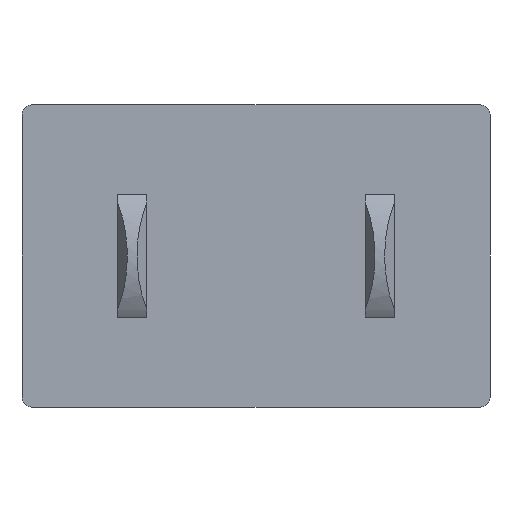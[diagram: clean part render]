
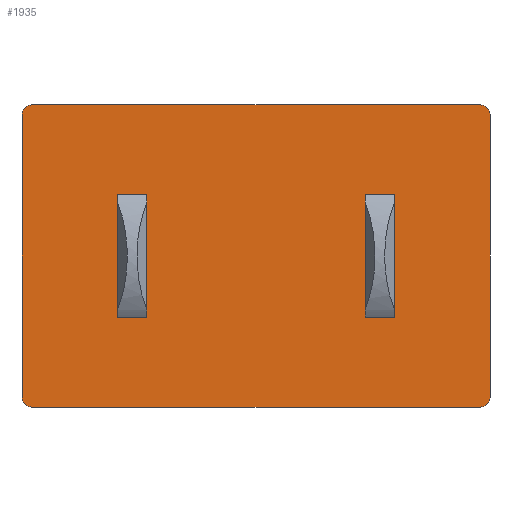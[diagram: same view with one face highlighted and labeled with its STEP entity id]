
A CAD part, front view. The second image highlights one B-rep face of the part: STEP entity #1935.
In plain terms, the highlighted planar face has unit normal (0, -1, 0).
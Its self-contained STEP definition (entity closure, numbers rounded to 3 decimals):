
#143 = AXIS2_PLACEMENT_3D ( 'NONE', #2419, #4649, #2940 ) ;
#178 = CIRCLE ( 'NONE', #4737, 0.5 ) ;
#193 = FACE_OUTER_BOUND ( 'NONE', #2290, .T. ) ;
#244 = VECTOR ( 'NONE', #2122, 1000. ) ;
#307 = EDGE_CURVE ( 'NONE', #3104, #3585, #879, .T. ) ;
#308 = DIRECTION ( 'NONE',  ( 1., 0., 0. ) ) ;
#321 = ORIENTED_EDGE ( 'NONE', *, *, #5642, .T. ) ;
#370 = CARTESIAN_POINT ( 'NONE',  ( 11.5, -3., -7.75 ) ) ;
#380 = ORIENTED_EDGE ( 'NONE', *, *, #5082, .T. ) ;
#408 = VECTOR ( 'NONE', #3575, 1000. ) ;
#416 = LINE ( 'NONE', #2209, #408 ) ;
#428 = DIRECTION ( 'NONE',  ( 0., -1., 0. ) ) ;
#440 = CIRCLE ( 'NONE', #2978, 0.5 ) ;
#587 = VERTEX_POINT ( 'NONE', #2904 ) ;
#593 = DIRECTION ( 'NONE',  ( 1., 0., 0. ) ) ;
#597 = PLANE ( 'NONE',  #2599 ) ;
#694 = LINE ( 'NONE', #2888, #1914 ) ;
#777 = LINE ( 'NONE', #5184, #1103 ) ;
#823 = CARTESIAN_POINT ( 'NONE',  ( 5.6, -3., -3.15 ) ) ;
#838 = CARTESIAN_POINT ( 'NONE',  ( 11.5, -3., -7.25 ) ) ;
#840 = VECTOR ( 'NONE', #1236, 1000. ) ;
#879 = LINE ( 'NONE', #4769, #244 ) ;
#937 = CARTESIAN_POINT ( 'NONE',  ( 12., -3., -7.25 ) ) ;
#994 = EDGE_CURVE ( 'NONE', #5473, #2341, #1739, .T. ) ;
#1047 = DIRECTION ( 'NONE',  ( 0., -1., 0. ) ) ;
#1103 = VECTOR ( 'NONE', #3907, 1000. ) ;
#1157 = ORIENTED_EDGE ( 'NONE', *, *, #2145, .T. ) ;
#1163 = VERTEX_POINT ( 'NONE', #937 ) ;
#1215 = VECTOR ( 'NONE', #3573, 1000. ) ;
#1227 = EDGE_CURVE ( 'NONE', #3971, #4129, #5502, .T. ) ;
#1236 = DIRECTION ( 'NONE',  ( 0., 0., 1. ) ) ;
#1310 = CARTESIAN_POINT ( 'NONE',  ( -5.6, -3., 3.15 ) ) ;
#1354 = CARTESIAN_POINT ( 'NONE',  ( -11.5, -3., -7.25 ) ) ;
#1372 = DIRECTION ( 'NONE',  ( 1., 0., 0. ) ) ;
#1444 = EDGE_CURVE ( 'NONE', #4797, #2518, #2525, .T. ) ;
#1446 = CARTESIAN_POINT ( 'NONE',  ( -12., -3., -7.25 ) ) ;
#1463 = CARTESIAN_POINT ( 'NONE',  ( 0., -3., 0. ) ) ;
#1465 = ORIENTED_EDGE ( 'NONE', *, *, #307, .T. ) ;
#1739 = LINE ( 'NONE', #2170, #4992 ) ;
#1914 = VECTOR ( 'NONE', #5604, 1000. ) ;
#1925 = FACE_BOUND ( 'NONE', #3788, .T. ) ;
#1935 = ADVANCED_FACE ( 'NONE', ( #1925, #4650, #193 ), #597, .T. ) ;
#1947 = AXIS2_PLACEMENT_3D ( 'NONE', #1354, #428, #3095 ) ;
#2028 = CARTESIAN_POINT ( 'NONE',  ( -5.6, -3., 3.15 ) ) ;
#2122 = DIRECTION ( 'NONE',  ( -1., 0., 0. ) ) ;
#2145 = EDGE_CURVE ( 'NONE', #2375, #2898, #777, .T. ) ;
#2164 = CARTESIAN_POINT ( 'NONE',  ( -12., -3., 7.75 ) ) ;
#2170 = CARTESIAN_POINT ( 'NONE',  ( 7.1, -3., -3.15 ) ) ;
#2207 = ORIENTED_EDGE ( 'NONE', *, *, #5341, .T. ) ;
#2209 = CARTESIAN_POINT ( 'NONE',  ( -5.6, -3., -3.15 ) ) ;
#2220 = ORIENTED_EDGE ( 'NONE', *, *, #4198, .T. ) ;
#2290 = EDGE_LOOP ( 'NONE', ( #380, #321, #1157, #3555, #3983, #3372, #3021, #3571 ) ) ;
#2341 = VERTEX_POINT ( 'NONE', #823 ) ;
#2349 = EDGE_CURVE ( 'NONE', #2518, #4746, #5391, .T. ) ;
#2375 = VERTEX_POINT ( 'NONE', #2662 ) ;
#2419 = CARTESIAN_POINT ( 'NONE',  ( 11.5, -3., 7.25 ) ) ;
#2438 = CARTESIAN_POINT ( 'NONE',  ( 12., -3., 7.25 ) ) ;
#2439 = CARTESIAN_POINT ( 'NONE',  ( 5.6, -3., 3.15 ) ) ;
#2518 = VERTEX_POINT ( 'NONE', #1446 ) ;
#2525 = LINE ( 'NONE', #2164, #5670 ) ;
#2568 = LINE ( 'NONE', #4343, #3217 ) ;
#2599 = AXIS2_PLACEMENT_3D ( 'NONE', #1463, #1047, #3266 ) ;
#2662 = CARTESIAN_POINT ( 'NONE',  ( 11.5, -3., 7.75 ) ) ;
#2715 = CARTESIAN_POINT ( 'NONE',  ( -11.5, -3., 7.75 ) ) ;
#2763 = LINE ( 'NONE', #4070, #1215 ) ;
#2785 = EDGE_CURVE ( 'NONE', #5343, #1163, #178, .T. ) ;
#2798 = CARTESIAN_POINT ( 'NONE',  ( 7.1, -3., -3.15 ) ) ;
#2888 = CARTESIAN_POINT ( 'NONE',  ( 12., -3., -7.75 ) ) ;
#2898 = VERTEX_POINT ( 'NONE', #2715 ) ;
#2904 = CARTESIAN_POINT ( 'NONE',  ( -7.1, -3., 3.15 ) ) ;
#2940 = DIRECTION ( 'NONE',  ( 1., 0., 0. ) ) ;
#2978 = AXIS2_PLACEMENT_3D ( 'NONE', #4128, #3666, #593 ) ;
#3013 = CARTESIAN_POINT ( 'NONE',  ( -12., -3., 7.25 ) ) ;
#3021 = ORIENTED_EDGE ( 'NONE', *, *, #3191, .T. ) ;
#3063 = CARTESIAN_POINT ( 'NONE',  ( 7.1, -3., 3.15 ) ) ;
#3095 = DIRECTION ( 'NONE',  ( 1., 0., 0. ) ) ;
#3104 = VERTEX_POINT ( 'NONE', #5242 ) ;
#3191 = EDGE_CURVE ( 'NONE', #4746, #5343, #2763, .T. ) ;
#3202 = EDGE_CURVE ( 'NONE', #2898, #4797, #440, .T. ) ;
#3217 = VECTOR ( 'NONE', #4368, 1000. ) ;
#3266 = DIRECTION ( 'NONE',  ( 1., 0., 0. ) ) ;
#3345 = CARTESIAN_POINT ( 'NONE',  ( -11.5, -3., -7.75 ) ) ;
#3372 = ORIENTED_EDGE ( 'NONE', *, *, #2349, .T. ) ;
#3449 = LINE ( 'NONE', #5223, #840 ) ;
#3454 = EDGE_CURVE ( 'NONE', #587, #3861, #4336, .T. ) ;
#3555 = ORIENTED_EDGE ( 'NONE', *, *, #3202, .T. ) ;
#3571 = ORIENTED_EDGE ( 'NONE', *, *, #2785, .T. ) ;
#3573 = DIRECTION ( 'NONE',  ( 1., 0., 0. ) ) ;
#3575 = DIRECTION ( 'NONE',  ( 0., 0., -1. ) ) ;
#3579 = DIRECTION ( 'NONE',  ( 0., -1., 0. ) ) ;
#3585 = VERTEX_POINT ( 'NONE', #4867 ) ;
#3629 = VERTEX_POINT ( 'NONE', #2438 ) ;
#3666 = DIRECTION ( 'NONE',  ( 0., -1., 0. ) ) ;
#3788 = EDGE_LOOP ( 'NONE', ( #2207, #1465, #2220, #5549 ) ) ;
#3861 = VERTEX_POINT ( 'NONE', #2028 ) ;
#3907 = DIRECTION ( 'NONE',  ( -1., 0., 0. ) ) ;
#3971 = VERTEX_POINT ( 'NONE', #4004 ) ;
#3983 = ORIENTED_EDGE ( 'NONE', *, *, #1444, .T. ) ;
#4004 = CARTESIAN_POINT ( 'NONE',  ( 5.6, -3., 3.15 ) ) ;
#4053 = VECTOR ( 'NONE', #5577, 1000. ) ;
#4070 = CARTESIAN_POINT ( 'NONE',  ( -12., -3., -7.75 ) ) ;
#4128 = CARTESIAN_POINT ( 'NONE',  ( -11.5, -3., 7.25 ) ) ;
#4129 = VERTEX_POINT ( 'NONE', #3063 ) ;
#4145 = ORIENTED_EDGE ( 'NONE', *, *, #5351, .T. ) ;
#4198 = EDGE_CURVE ( 'NONE', #3585, #587, #3449, .T. ) ;
#4336 = LINE ( 'NONE', #1310, #4370 ) ;
#4343 = CARTESIAN_POINT ( 'NONE',  ( 5.6, -3., -3.15 ) ) ;
#4368 = DIRECTION ( 'NONE',  ( 0., 0., 1. ) ) ;
#4370 = VECTOR ( 'NONE', #308, 1000. ) ;
#4419 = CIRCLE ( 'NONE', #143, 0.5 ) ;
#4606 = DIRECTION ( 'NONE',  ( 1., 0., 0. ) ) ;
#4648 = ORIENTED_EDGE ( 'NONE', *, *, #1227, .T. ) ;
#4649 = DIRECTION ( 'NONE',  ( 0., -1., 0. ) ) ;
#4650 = FACE_BOUND ( 'NONE', #5354, .T. ) ;
#4688 = CARTESIAN_POINT ( 'NONE',  ( 7.1, -3., 3.15 ) ) ;
#4737 = AXIS2_PLACEMENT_3D ( 'NONE', #838, #3579, #1372 ) ;
#4746 = VERTEX_POINT ( 'NONE', #3345 ) ;
#4769 = CARTESIAN_POINT ( 'NONE',  ( -7.1, -3., -3.15 ) ) ;
#4797 = VERTEX_POINT ( 'NONE', #3013 ) ;
#4867 = CARTESIAN_POINT ( 'NONE',  ( -7.1, -3., -3.15 ) ) ;
#4992 = VECTOR ( 'NONE', #5177, 1000. ) ;
#5025 = ORIENTED_EDGE ( 'NONE', *, *, #5209, .T. ) ;
#5082 = EDGE_CURVE ( 'NONE', #1163, #3629, #694, .T. ) ;
#5106 = VECTOR ( 'NONE', #4606, 1000. ) ;
#5177 = DIRECTION ( 'NONE',  ( -1., 0., 0. ) ) ;
#5184 = CARTESIAN_POINT ( 'NONE',  ( 12., -3., 7.75 ) ) ;
#5209 = EDGE_CURVE ( 'NONE', #4129, #5473, #5633, .T. ) ;
#5223 = CARTESIAN_POINT ( 'NONE',  ( -7.1, -3., 3.15 ) ) ;
#5242 = CARTESIAN_POINT ( 'NONE',  ( -5.6, -3., -3.15 ) ) ;
#5299 = ORIENTED_EDGE ( 'NONE', *, *, #994, .T. ) ;
#5341 = EDGE_CURVE ( 'NONE', #3861, #3104, #416, .T. ) ;
#5343 = VERTEX_POINT ( 'NONE', #370 ) ;
#5351 = EDGE_CURVE ( 'NONE', #2341, #3971, #2568, .T. ) ;
#5354 = EDGE_LOOP ( 'NONE', ( #4145, #4648, #5025, #5299 ) ) ;
#5391 = CIRCLE ( 'NONE', #1947, 0.5 ) ;
#5473 = VERTEX_POINT ( 'NONE', #2798 ) ;
#5502 = LINE ( 'NONE', #2439, #5106 ) ;
#5549 = ORIENTED_EDGE ( 'NONE', *, *, #3454, .T. ) ;
#5577 = DIRECTION ( 'NONE',  ( 0., 0., -1. ) ) ;
#5604 = DIRECTION ( 'NONE',  ( 0., 0., 1. ) ) ;
#5633 = LINE ( 'NONE', #4688, #4053 ) ;
#5642 = EDGE_CURVE ( 'NONE', #3629, #2375, #4419, .T. ) ;
#5670 = VECTOR ( 'NONE', #5719, 1000. ) ;
#5719 = DIRECTION ( 'NONE',  ( 0., 0., -1. ) ) ;
